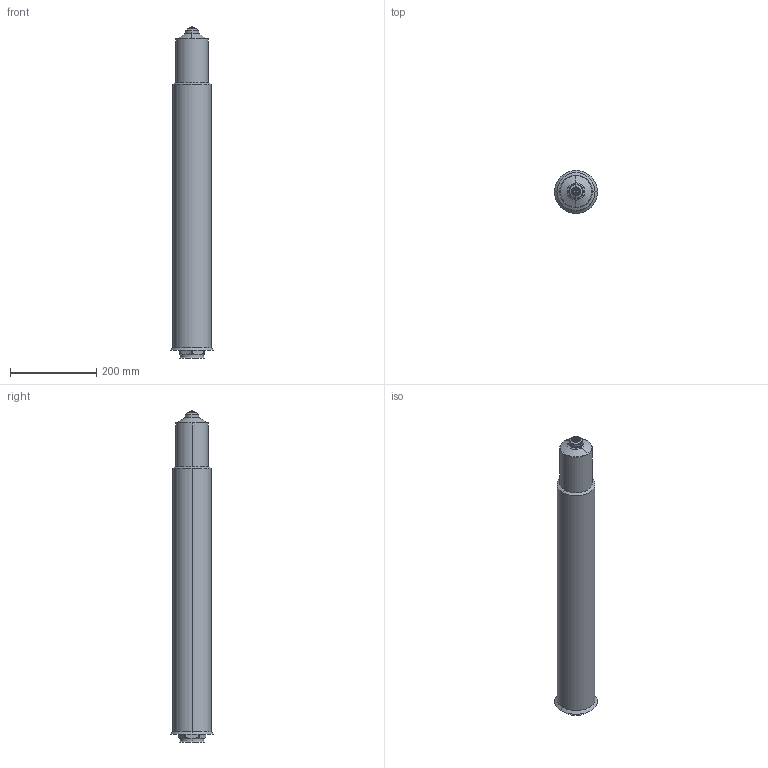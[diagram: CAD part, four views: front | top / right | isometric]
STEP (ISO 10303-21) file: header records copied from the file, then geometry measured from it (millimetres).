
FILE_DESCRIPTION (( 'STEP AP214' ), '1' );
FILE_NAME ('T24_OPEN_750_HELICAL.STEP', '2009-05-11T13:41:43', ( 'Synventive Molding Solutions' ), ( 'Synventive Molding Solutions' ), 'SwSTEP 2.0', 'SolidWorks 2008', '' );
FILE_SCHEMA (( 'AUTOMOTIVE_DESIGN' ));
Length unit declared in the file: millimetre
Products named in the file (1): T24_OPEN_750_HELICAL
Bounding box: 100 x 100 x 768 mm (x, y, z)
Volume: 6281805.2 mm3; surface area: 391124.4 mm2
Topology: 2 solids, 2 shells, 357 faces, 961 edges, 615 vertices
Faces by surface type: cylinder 127, plane 109, bspline 52, torus 38, cone 31
Entity records: 33973 total; most frequent: CARTESIAN_POINT 21783, ORIENTED_EDGE 1922, DIRECTION 1546, EDGE_CURVE 961, VERTEX_POINT 615, AXIS2_PLACEMENT_3D 587, EDGE_LOOP 374, LINE 372
